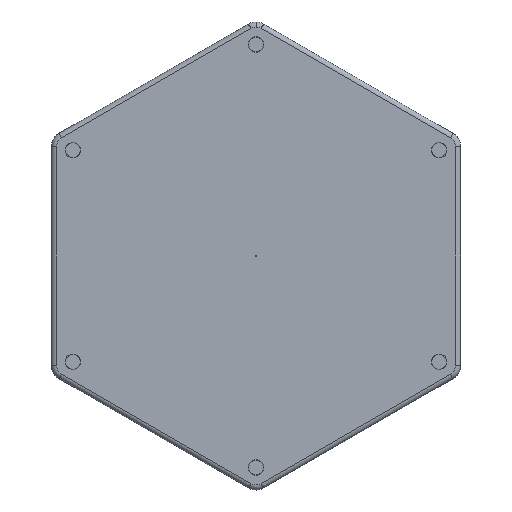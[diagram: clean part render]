
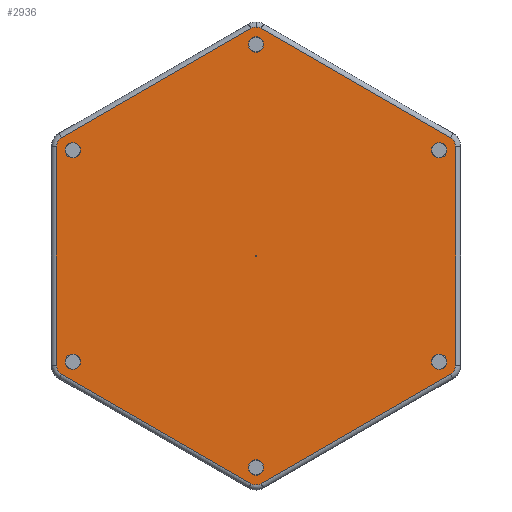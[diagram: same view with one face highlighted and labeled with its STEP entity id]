
A CAD part, front view. The second image highlights one B-rep face of the part: STEP entity #2936.
In plain terms, the highlighted planar face has unit normal (0, -1, 0).
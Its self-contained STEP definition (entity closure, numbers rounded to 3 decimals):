
#3 = LINE ( 'NONE', #1423, #2482 ) ;
#13 = EDGE_CURVE ( 'NONE', #3254, #1153, #1447, .T. ) ;
#44 = CARTESIAN_POINT ( 'NONE',  ( 0., 0., 427.239 ) ) ;
#91 = EDGE_CURVE ( 'NONE', #2859, #3495, #1217, .T. ) ;
#97 = DIRECTION ( 'NONE',  ( 0., -1., 0. ) ) ;
#112 = DIRECTION ( 'NONE',  ( 0., 0., 1. ) ) ;
#119 = EDGE_CURVE ( 'NONE', #2279, #1982, #1027, .T. ) ;
#135 = CARTESIAN_POINT ( 'NONE',  ( 0., 0., 427.239 ) ) ;
#173 = VECTOR ( 'NONE', #947, 1000. ) ;
#220 = ORIENTED_EDGE ( 'NONE', *, *, #1162, .T. ) ;
#273 = CIRCLE ( 'NONE', #1101, 20. ) ;
#443 = EDGE_CURVE ( 'NONE', #2342, #2279, #3, .T. ) ;
#486 = VECTOR ( 'NONE', #112, 1000. ) ;
#521 = DIRECTION ( 'NONE',  ( 0., 0., 1. ) ) ;
#572 = LINE ( 'NONE', #2250, #3702 ) ;
#631 = CARTESIAN_POINT ( 'NONE',  ( -10., 0., -444.56 ) ) ;
#632 = AXIS2_PLACEMENT_3D ( 'NONE', #2196, #3397, #1003 ) ;
#635 = VERTEX_POINT ( 'NONE', #631 ) ;
#653 = CARTESIAN_POINT ( 'NONE',  ( 395., 0., 222.28 ) ) ;
#775 = CARTESIAN_POINT ( 'NONE',  ( 10., 0., -444.56 ) ) ;
#780 = CARTESIAN_POINT ( 'NONE',  ( 0., 0., 0. ) ) ;
#792 = ORIENTED_EDGE ( 'NONE', *, *, #2221, .T. ) ;
#826 = ORIENTED_EDGE ( 'NONE', *, *, #1742, .T. ) ;
#830 = DIRECTION ( 'NONE',  ( 0., -1., 0. ) ) ;
#858 = CARTESIAN_POINT ( 'NONE',  ( 595., 0., -106.81 ) ) ;
#905 = AXIS2_PLACEMENT_3D ( 'NONE', #3839, #2578, #3800 ) ;
#938 = EDGE_CURVE ( 'NONE', #635, #3174, #1200, .T. ) ;
#947 = DIRECTION ( 'NONE',  ( -0.866, 0., 0.5 ) ) ;
#952 = CARTESIAN_POINT ( 'NONE',  ( 0., 0., -0.5 ) ) ;
#971 = EDGE_CURVE ( 'NONE', #2907, #1032, #3487, .T. ) ;
#994 = EDGE_CURVE ( 'NONE', #3174, #3254, #2656, .T. ) ;
#999 = EDGE_CURVE ( 'NONE', #1032, #2342, #273, .T. ) ;
#1003 = DIRECTION ( 'NONE',  ( 0., 0., 1. ) ) ;
#1027 = CIRCLE ( 'NONE', #2871, 20. ) ;
#1032 = VERTEX_POINT ( 'NONE', #1145 ) ;
#1081 = ORIENTED_EDGE ( 'NONE', *, *, #1313, .F. ) ;
#1101 = AXIS2_PLACEMENT_3D ( 'NONE', #2094, #3262, #2045 ) ;
#1131 = CARTESIAN_POINT ( 'NONE',  ( -10., 0., 444.56 ) ) ;
#1145 = CARTESIAN_POINT ( 'NONE',  ( -380., 0., 230.94 ) ) ;
#1153 = VERTEX_POINT ( 'NONE', #1318 ) ;
#1162 = EDGE_CURVE ( 'NONE', #2009, #3537, #1571, .T. ) ;
#1179 = DIRECTION ( 'NONE',  ( 0., -1., 0. ) ) ;
#1200 = CIRCLE ( 'NONE', #905, 20. ) ;
#1217 = CIRCLE ( 'NONE', #3366, 0.5 ) ;
#1242 = ORIENTED_EDGE ( 'NONE', *, *, #971, .T. ) ;
#1309 = AXIS2_PLACEMENT_3D ( 'NONE', #44, #2481, #3061 ) ;
#1313 = EDGE_CURVE ( 'NONE', #3495, #2859, #2556, .T. ) ;
#1318 = CARTESIAN_POINT ( 'NONE',  ( 390., 0., -213.62 ) ) ;
#1368 = CIRCLE ( 'NONE', #632, 20. ) ;
#1399 = PLANE ( 'NONE',  #2777 ) ;
#1423 = CARTESIAN_POINT ( 'NONE',  ( -390., 0., 230.94 ) ) ;
#1437 = DIRECTION ( 'NONE',  ( 0., 0., -1. ) ) ;
#1447 = CIRCLE ( 'NONE', #3610, 20. ) ;
#1459 = LINE ( 'NONE', #3114, #486 ) ;
#1475 = VECTOR ( 'NONE', #2592, 1000. ) ;
#1509 = DIRECTION ( 'NONE',  ( 0., 0., 1. ) ) ;
#1529 = ORIENTED_EDGE ( 'NONE', *, *, #443, .T. ) ;
#1571 = CIRCLE ( 'NONE', #2896, 20. ) ;
#1627 = EDGE_LOOP ( 'NONE', ( #826, #220, #2441, #1242, #1959, #1529, #3579, #2086, #2290, #2272, #1734, #792, #3863 ) ) ;
#1694 = FACE_OUTER_BOUND ( 'NONE', #1627, .T. ) ;
#1734 = ORIENTED_EDGE ( 'NONE', *, *, #13, .T. ) ;
#1742 = EDGE_CURVE ( 'NONE', #2496, #2009, #1751, .T. ) ;
#1751 = LINE ( 'NONE', #653, #173 ) ;
#1851 = CARTESIAN_POINT ( 'NONE',  ( -390., 0., -213.62 ) ) ;
#1871 = CARTESIAN_POINT ( 'NONE',  ( 390., 0., 213.62 ) ) ;
#1959 = ORIENTED_EDGE ( 'NONE', *, *, #999, .T. ) ;
#1982 = VERTEX_POINT ( 'NONE', #3277 ) ;
#2009 = VERTEX_POINT ( 'NONE', #2046 ) ;
#2015 = CARTESIAN_POINT ( 'NONE',  ( 400., 0., 230.94 ) ) ;
#2017 = CARTESIAN_POINT ( 'NONE',  ( 370., 0., -213.62 ) ) ;
#2045 = DIRECTION ( 'NONE',  ( 0., 0., 1. ) ) ;
#2046 = CARTESIAN_POINT ( 'NONE',  ( 10., 0., 444.56 ) ) ;
#2086 = ORIENTED_EDGE ( 'NONE', *, *, #2240, .T. ) ;
#2094 = CARTESIAN_POINT ( 'NONE',  ( -370., 0., 213.62 ) ) ;
#2138 = VECTOR ( 'NONE', #3587, 1000. ) ;
#2196 = CARTESIAN_POINT ( 'NONE',  ( 370., 0., 213.62 ) ) ;
#2221 = EDGE_CURVE ( 'NONE', #1153, #3795, #1459, .T. ) ;
#2240 = EDGE_CURVE ( 'NONE', #1982, #635, #572, .T. ) ;
#2250 = CARTESIAN_POINT ( 'NONE',  ( 5., 0., -453.22 ) ) ;
#2272 = ORIENTED_EDGE ( 'NONE', *, *, #994, .T. ) ;
#2279 = VERTEX_POINT ( 'NONE', #1851 ) ;
#2290 = ORIENTED_EDGE ( 'NONE', *, *, #938, .T. ) ;
#2320 = EDGE_LOOP ( 'NONE', ( #1081, #3292 ) ) ;
#2342 = VERTEX_POINT ( 'NONE', #3210 ) ;
#2350 = DIRECTION ( 'NONE',  ( 0., 0., 1. ) ) ;
#2377 = DIRECTION ( 'NONE',  ( 0., 0., -1. ) ) ;
#2400 = FACE_BOUND ( 'NONE', #2320, .T. ) ;
#2441 = ORIENTED_EDGE ( 'NONE', *, *, #3512, .T. ) ;
#2476 = DIRECTION ( 'NONE',  ( 0., 0., 1. ) ) ;
#2481 = DIRECTION ( 'NONE',  ( 0., -1., 0. ) ) ;
#2482 = VECTOR ( 'NONE', #1437, 1000. ) ;
#2496 = VERTEX_POINT ( 'NONE', #3288 ) ;
#2556 = CIRCLE ( 'NONE', #3324, 0.5 ) ;
#2578 = DIRECTION ( 'NONE',  ( 0., -1., 0. ) ) ;
#2592 = DIRECTION ( 'NONE',  ( -0.866, 0., -0.5 ) ) ;
#2611 = CARTESIAN_POINT ( 'NONE',  ( 380., 0., -230.94 ) ) ;
#2656 = LINE ( 'NONE', #858, #2138 ) ;
#2677 = CIRCLE ( 'NONE', #1309, 20. ) ;
#2680 = DIRECTION ( 'NONE',  ( 0., -1., 0. ) ) ;
#2698 = EDGE_CURVE ( 'NONE', #3795, #2496, #1368, .T. ) ;
#2759 = DIRECTION ( 'NONE',  ( 0.866, 0., -0.5 ) ) ;
#2777 = AXIS2_PLACEMENT_3D ( 'NONE', #2015, #3561, #521 ) ;
#2859 = VERTEX_POINT ( 'NONE', #3258 ) ;
#2871 = AXIS2_PLACEMENT_3D ( 'NONE', #3885, #2680, #1509 ) ;
#2896 = AXIS2_PLACEMENT_3D ( 'NONE', #135, #97, #2476 ) ;
#2907 = VERTEX_POINT ( 'NONE', #1131 ) ;
#2936 = ADVANCED_FACE ( 'NONE', ( #2400, #1694 ), #1399, .F. ) ;
#3061 = DIRECTION ( 'NONE',  ( 0., 0., 1. ) ) ;
#3078 = CARTESIAN_POINT ( 'NONE',  ( 0., 0., 447.239 ) ) ;
#3114 = CARTESIAN_POINT ( 'NONE',  ( 390., 0., 230.94 ) ) ;
#3174 = VERTEX_POINT ( 'NONE', #775 ) ;
#3207 = DIRECTION ( 'NONE',  ( 0., 0., -1. ) ) ;
#3210 = CARTESIAN_POINT ( 'NONE',  ( -390., 0., 213.62 ) ) ;
#3212 = CARTESIAN_POINT ( 'NONE',  ( 205., 0., 568.69 ) ) ;
#3254 = VERTEX_POINT ( 'NONE', #2611 ) ;
#3258 = CARTESIAN_POINT ( 'NONE',  ( 0., 0., 0.5 ) ) ;
#3262 = DIRECTION ( 'NONE',  ( 0., -1., 0. ) ) ;
#3277 = CARTESIAN_POINT ( 'NONE',  ( -380., 0., -230.94 ) ) ;
#3288 = CARTESIAN_POINT ( 'NONE',  ( 380., 0., 230.94 ) ) ;
#3292 = ORIENTED_EDGE ( 'NONE', *, *, #91, .F. ) ;
#3314 = CARTESIAN_POINT ( 'NONE',  ( 0., 0., 0. ) ) ;
#3324 = AXIS2_PLACEMENT_3D ( 'NONE', #780, #3789, #3207 ) ;
#3366 = AXIS2_PLACEMENT_3D ( 'NONE', #3314, #1179, #2377 ) ;
#3397 = DIRECTION ( 'NONE',  ( 0., -1., 0. ) ) ;
#3487 = LINE ( 'NONE', #3212, #1475 ) ;
#3495 = VERTEX_POINT ( 'NONE', #952 ) ;
#3512 = EDGE_CURVE ( 'NONE', #3537, #2907, #2677, .T. ) ;
#3537 = VERTEX_POINT ( 'NONE', #3078 ) ;
#3561 = DIRECTION ( 'NONE',  ( 0., 1., 0. ) ) ;
#3579 = ORIENTED_EDGE ( 'NONE', *, *, #119, .T. ) ;
#3587 = DIRECTION ( 'NONE',  ( 0.866, 0., 0.5 ) ) ;
#3610 = AXIS2_PLACEMENT_3D ( 'NONE', #2017, #830, #2350 ) ;
#3702 = VECTOR ( 'NONE', #2759, 1000. ) ;
#3789 = DIRECTION ( 'NONE',  ( 0., -1., 0. ) ) ;
#3795 = VERTEX_POINT ( 'NONE', #1871 ) ;
#3800 = DIRECTION ( 'NONE',  ( 0., 0., 1. ) ) ;
#3839 = CARTESIAN_POINT ( 'NONE',  ( 0., 0., -427.239 ) ) ;
#3863 = ORIENTED_EDGE ( 'NONE', *, *, #2698, .T. ) ;
#3885 = CARTESIAN_POINT ( 'NONE',  ( -370., 0., -213.62 ) ) ;
